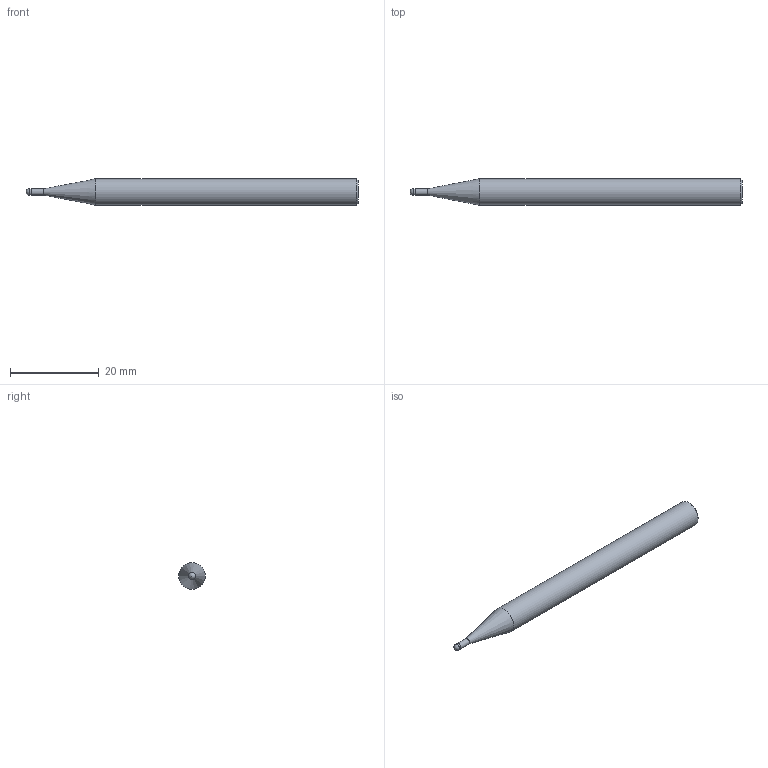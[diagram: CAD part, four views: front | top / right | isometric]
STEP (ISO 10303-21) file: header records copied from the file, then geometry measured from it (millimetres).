
FILE_DESCRIPTION(/* description */ (''),/* implementation_level */ '2;1');
FILE_NAME(/* name */ 'HSXB2015 0675.stp',/* time_stamp */ '2026-08-01T16:14:27+08:00',/* author */ (''),/* organization */ (''),/* preprocessor_version */ 'ST-DEVELOPER v16',/* originating_system */ 'SIEMENS PLM Software NX 10.0',/* authorisation */ '');
FILE_SCHEMA (('CONFIG_CONTROL_DESIGN'));
Length unit declared in the file: millimetre
Products named in the file (1): HSXB2015 0675_dxf
Bounding box: 75 x 6 x 6 mm (x, y, z)
Volume: 1823.2 mm3; surface area: 1302.5 mm2
Topology: 2 solids, 2 shells, 9 faces, 15 edges, 9 vertices
Faces by surface type: plane 3, cylinder 3, cone 2, sphere 1
Full cylindrical faces by diameter (mm): 1.42 x1, 1.5 x1, 6 x1
Entity records: 246 total; most frequent: DIRECTION 34, CARTESIAN_POINT 24, AXIS2_PLACEMENT_3D 17, EDGE_LOOP 14, ORIENTED_EDGE 14, FACE_BOUND 10, ADVANCED_FACE 9, PERSON_AND_ORGANIZATION 7
